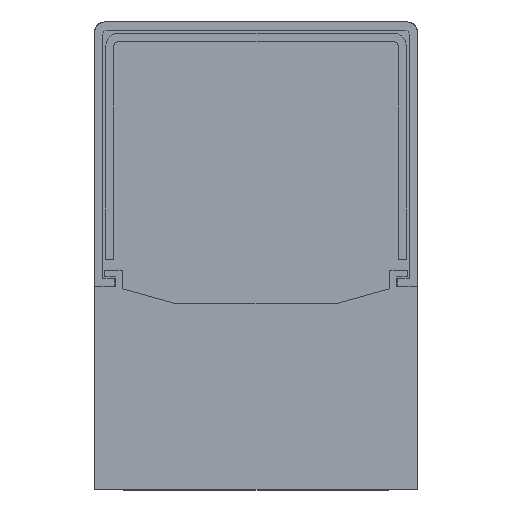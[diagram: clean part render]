
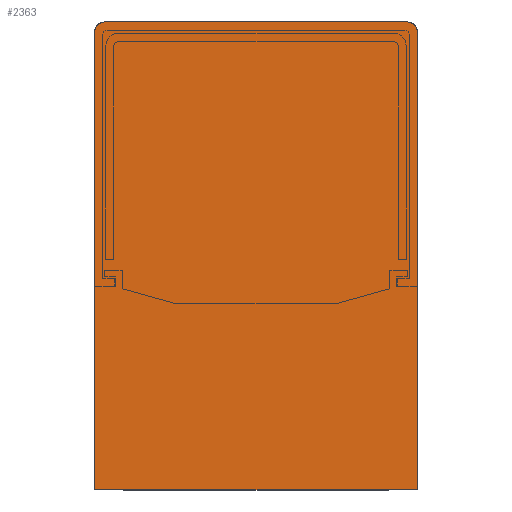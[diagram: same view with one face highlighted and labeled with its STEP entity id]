
A CAD part, left-side view. The second image highlights one B-rep face of the part: STEP entity #2363.
In plain terms, the highlighted planar face has unit normal (-1, 0, 0).
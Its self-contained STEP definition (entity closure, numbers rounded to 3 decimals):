
#36=B_SPLINE_CURVE_WITH_KNOTS('',3,(#3945,#3946,#3947,#3948,#3949,#3950,
#3951,#3952,#3953),.UNSPECIFIED.,.F.,.F.,(4,1,1,1,1,1,4),(0.,0.167,
0.333,0.5,0.667,0.833,1.),
 .UNSPECIFIED.);
#37=B_SPLINE_CURVE_WITH_KNOTS('',3,(#3954,#3955,#3956,#3957,#3958,#3959,
#3960,#3961,#3962),.UNSPECIFIED.,.F.,.F.,(4,1,1,1,1,1,4),(0.,0.167,
0.333,0.5,0.667,0.833,1.),
 .UNSPECIFIED.);
#225=FACE_OUTER_BOUND('',#336,.T.);
#336=EDGE_LOOP('',(#2126,#2127,#2128,#2129,#2130,#2131,#2132));
#599=LINE('',#3892,#888);
#603=LINE('',#3900,#892);
#606=LINE('',#3906,#895);
#609=LINE('',#3912,#898);
#612=LINE('',#3919,#901);
#888=VECTOR('',#3075,304.8);
#892=VECTOR('',#3081,304.8);
#895=VECTOR('',#3086,304.8);
#898=VECTOR('',#3091,304.8);
#901=VECTOR('',#3096,304.8);
#1132=VERTEX_POINT('',#3890);
#1133=VERTEX_POINT('',#3891);
#1136=VERTEX_POINT('',#3899);
#1138=VERTEX_POINT('',#3905);
#1140=VERTEX_POINT('',#3911);
#1142=VERTEX_POINT('',#3917);
#1143=VERTEX_POINT('',#3918);
#1475=EDGE_CURVE('',#1132,#1133,#599,.T.);
#1479=EDGE_CURVE('',#1133,#1136,#603,.T.);
#1482=EDGE_CURVE('',#1136,#1138,#606,.T.);
#1485=EDGE_CURVE('',#1138,#1140,#609,.T.);
#1488=EDGE_CURVE('',#1142,#1143,#612,.T.);
#1494=EDGE_CURVE('',#1140,#1142,#36,.T.);
#1495=EDGE_CURVE('',#1143,#1132,#37,.T.);
#2126=ORIENTED_EDGE('',*,*,#1475,.T.);
#2127=ORIENTED_EDGE('',*,*,#1479,.T.);
#2128=ORIENTED_EDGE('',*,*,#1482,.T.);
#2129=ORIENTED_EDGE('',*,*,#1485,.T.);
#2130=ORIENTED_EDGE('',*,*,#1494,.T.);
#2131=ORIENTED_EDGE('',*,*,#1488,.T.);
#2132=ORIENTED_EDGE('',*,*,#1495,.T.);
#2252=PLANE('',#2523);
#2363=ADVANCED_FACE('',(#225),#2252,.T.);
#2523=AXIS2_PLACEMENT_3D('',#3944,#3102,#3103);
#3075=DIRECTION('',(0.,0.,-1.));
#3081=DIRECTION('',(0.,-1.,0.));
#3086=DIRECTION('',(0.,-1.,0.));
#3091=DIRECTION('',(0.,0.,1.));
#3096=DIRECTION('',(0.,1.,0.));
#3102=DIRECTION('center_axis',(-1.,0.,0.));
#3103=DIRECTION('ref_axis',(0.,0.,-1.));
#3890=CARTESIAN_POINT('',(-300.,20.,56.788));
#3891=CARTESIAN_POINT('',(-300.,20.,0.));
#3892=CARTESIAN_POINT('',(-300.,20.,56.788));
#3899=CARTESIAN_POINT('',(-300.,0.,0.));
#3900=CARTESIAN_POINT('',(-300.,20.,0.));
#3905=CARTESIAN_POINT('',(-300.,-20.,0.));
#3906=CARTESIAN_POINT('',(-300.,0.,0.));
#3911=CARTESIAN_POINT('',(-300.,-20.,56.768));
#3912=CARTESIAN_POINT('',(-300.,-20.,0.));
#3917=CARTESIAN_POINT('',(-300.,-18.768,58.));
#3918=CARTESIAN_POINT('',(-300.,18.788,58.));
#3919=CARTESIAN_POINT('',(-300.,-18.768,58.));
#3944=CARTESIAN_POINT('Origin',(-300.,20.,0.));
#3945=CARTESIAN_POINT('Ctrl Pts',(-300.,-20.,56.768));
#3946=CARTESIAN_POINT('Ctrl Pts',(-300.,-20.,56.876));
#3947=CARTESIAN_POINT('Ctrl Pts',(-300.,-19.972,57.091));
#3948=CARTESIAN_POINT('Ctrl Pts',(-300.,-19.847,57.391));
#3949=CARTESIAN_POINT('Ctrl Pts',(-300.,-19.649,57.649));
#3950=CARTESIAN_POINT('Ctrl Pts',(-300.,-19.391,57.847));
#3951=CARTESIAN_POINT('Ctrl Pts',(-300.,-19.091,57.972));
#3952=CARTESIAN_POINT('Ctrl Pts',(-300.,-18.876,58.));
#3953=CARTESIAN_POINT('Ctrl Pts',(-300.,-18.768,58.));
#3954=CARTESIAN_POINT('Ctrl Pts',(-300.,18.788,58.));
#3955=CARTESIAN_POINT('Ctrl Pts',(-300.,18.894,58.));
#3956=CARTESIAN_POINT('Ctrl Pts',(-300.,19.106,57.972));
#3957=CARTESIAN_POINT('Ctrl Pts',(-300.,19.401,57.85));
#3958=CARTESIAN_POINT('Ctrl Pts',(-300.,19.655,57.655));
#3959=CARTESIAN_POINT('Ctrl Pts',(-300.,19.85,57.401));
#3960=CARTESIAN_POINT('Ctrl Pts',(-300.,19.972,57.106));
#3961=CARTESIAN_POINT('Ctrl Pts',(-300.,20.,56.894));
#3962=CARTESIAN_POINT('Ctrl Pts',(-300.,20.,56.788));
